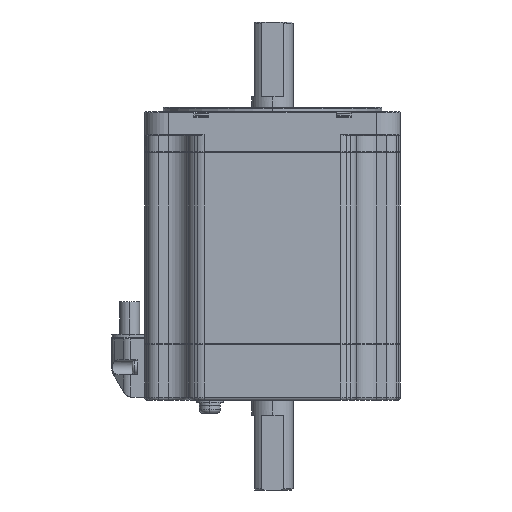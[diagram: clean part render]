
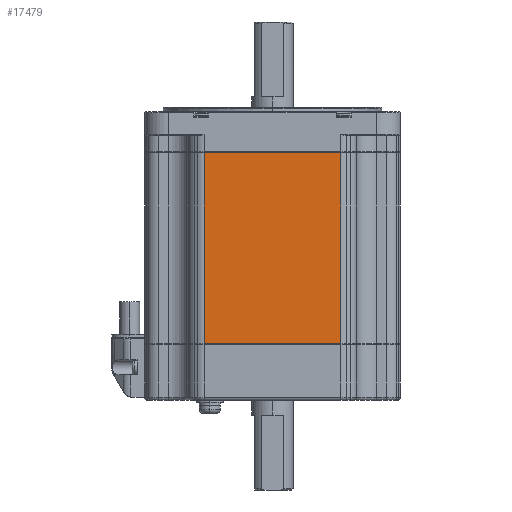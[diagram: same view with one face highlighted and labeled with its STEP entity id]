
A CAD part, left-side view. The second image highlights one B-rep face of the part: STEP entity #17479.
In plain terms, the highlighted planar face has unit normal (-1, 0, 0).
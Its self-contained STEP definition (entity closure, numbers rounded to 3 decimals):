
#1776 = EDGE_CURVE ( 'NONE', #5362, #5742, #4129, .T. ) ;
#1812 = EDGE_CURVE ( 'NONE', #6271, #5362, #4020, .T. ) ;
#1816 = EDGE_CURVE ( 'NONE', #5506, #5742, #4000, .T. ) ;
#1826 = EDGE_CURVE ( 'NONE', #5506, #6271, #3979, .T. ) ;
#2111 = ORIENTED_EDGE ( 'NONE', *, *, #1776, .T. ) ;
#2135 = ORIENTED_EDGE ( 'NONE', *, *, #1816, .F. ) ;
#2163 = ORIENTED_EDGE ( 'NONE', *, *, #1826, .T. ) ;
#2246 = ORIENTED_EDGE ( 'NONE', *, *, #1812, .T. ) ;
#2969 = FACE_OUTER_BOUND ( 'NONE', #19638, .T. ) ;
#3935 = AXIS2_PLACEMENT_3D ( 'NONE', #18402, #18403, #18404 ) ;
#3979 = LINE ( 'NONE', #11018, #6738 ) ;
#4000 = LINE ( 'NONE', #11393, #6790 ) ;
#4020 = LINE ( 'NONE', #11246, #6846 ) ;
#4129 = LINE ( 'NONE', #22414, #9242 ) ;
#5362 = VERTEX_POINT ( 'NONE', #10934 ) ;
#5506 = VERTEX_POINT ( 'NONE', #11172 ) ;
#5742 = VERTEX_POINT ( 'NONE', #10677 ) ;
#6271 = VERTEX_POINT ( 'NONE', #8246 ) ;
#6738 = VECTOR ( 'NONE', #10597, 1000. ) ;
#6790 = VECTOR ( 'NONE', #11401, 1000. ) ;
#6846 = VECTOR ( 'NONE', #10758, 1000. ) ;
#8246 = CARTESIAN_POINT ( 'NONE',  ( -42.75, -22.879, -77.55 ) ) ;
#9242 = VECTOR ( 'NONE', #22440, 1000. ) ;
#10597 = DIRECTION ( 'NONE',  ( 0., -1., 0. ) ) ;
#10677 = CARTESIAN_POINT ( 'NONE',  ( -42.75, 22.879, -13.7 ) ) ;
#10758 = DIRECTION ( 'NONE',  ( 0., 0., 1. ) ) ;
#10934 = CARTESIAN_POINT ( 'NONE',  ( -42.75, -22.879, -13.7 ) ) ;
#11018 = CARTESIAN_POINT ( 'NONE',  ( -42.75, 22.879, -77.55 ) ) ;
#11172 = CARTESIAN_POINT ( 'NONE',  ( -42.75, 22.879, -77.55 ) ) ;
#11246 = CARTESIAN_POINT ( 'NONE',  ( -42.75, -22.879, -77.75 ) ) ;
#11393 = CARTESIAN_POINT ( 'NONE',  ( -42.75, 22.879, -77.75 ) ) ;
#11401 = DIRECTION ( 'NONE',  ( 0., 0., 1. ) ) ;
#17479 = ADVANCED_FACE ( 'NONE', ( #2969 ), #18401, .F. ) ;
#18401 = PLANE ( 'NONE',  #3935 ) ;
#18402 = CARTESIAN_POINT ( 'NONE',  ( -42.75, 22.879, -77.75 ) ) ;
#18403 = DIRECTION ( 'NONE',  ( 1., 0., 0. ) ) ;
#18404 = DIRECTION ( 'NONE',  ( 0., 0., -1. ) ) ;
#19638 = EDGE_LOOP ( 'NONE', ( #2135, #2163, #2246, #2111 ) ) ;
#22414 = CARTESIAN_POINT ( 'NONE',  ( -42.75, 22.879, -13.7 ) ) ;
#22440 = DIRECTION ( 'NONE',  ( 0., 1., 0. ) ) ;
